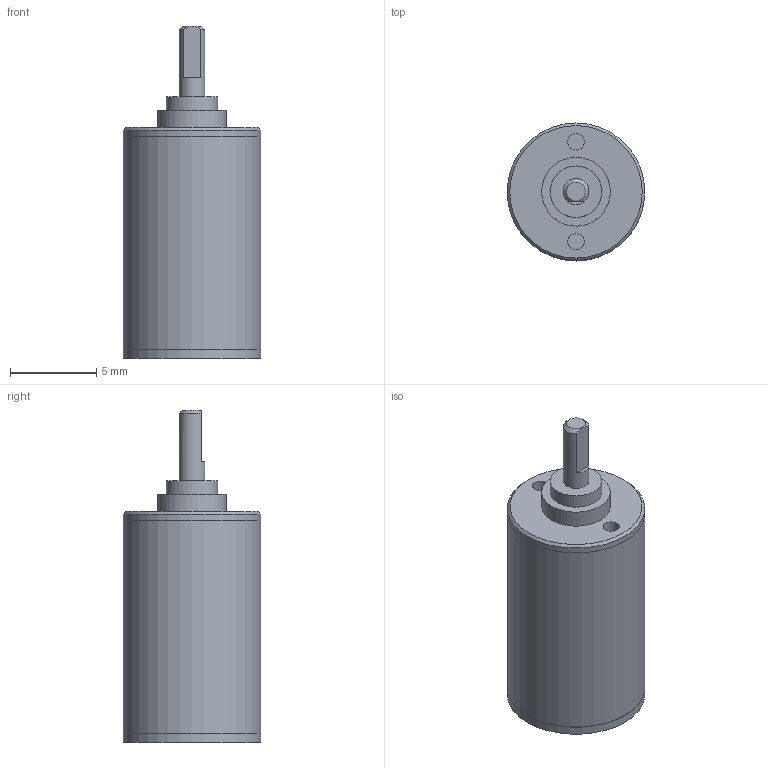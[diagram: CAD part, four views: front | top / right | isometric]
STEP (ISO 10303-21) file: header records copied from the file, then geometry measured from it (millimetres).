
FILE_DESCRIPTION(/* description */ (''),/* implementation_level */ '2;1');
FILE_NAME(/* name */ '08-2K_3.stp',/* time_stamp */ '2016-08-23T14:18:10+02:00',/* author */ ('DR. FRITZ FAULHABER GmbH & Co. KG'),/* organization */ ('DR. FRITZ FAULHABER GmbH & Co. KG'),/* preprocessor_version */ 'ST-DEVELOPER v16',/* originating_system */ 'SIEMENS PLM Software NX 10.0',/* authorisation */ '');
FILE_SCHEMA (('AUTOMOTIVE_DESIGN { 1 0 10303 214 3 1 1 1 }'));
Length unit declared in the file: millimetre
Products named in the file (1): H00000397_A
Bounding box: 8 x 8 x 19.3 mm (x, y, z)
Volume: 625.4 mm3; surface area: 547.4 mm2
Topology: 1 solids, 1 shells, 33 faces, 56 edges, 37 vertices
Faces by surface type: plane 16, cylinder 14, cone 3
Full cylindrical faces by diameter (mm): 0.95 x2, 1.5 x1, 2.13 x1, 2.53 x1, 3 x1, 4 x1, 4.959 x1, 6 x1, 7.99 x2, 8 x3
Entity records: 709 total; most frequent: DIRECTION 133, CARTESIAN_POINT 115, ORIENTED_EDGE 72, AXIS2_PLACEMENT_3D 65, EDGE_LOOP 61, FACE_BOUND 54, EDGE_CURVE 36, ADVANCED_FACE 33
